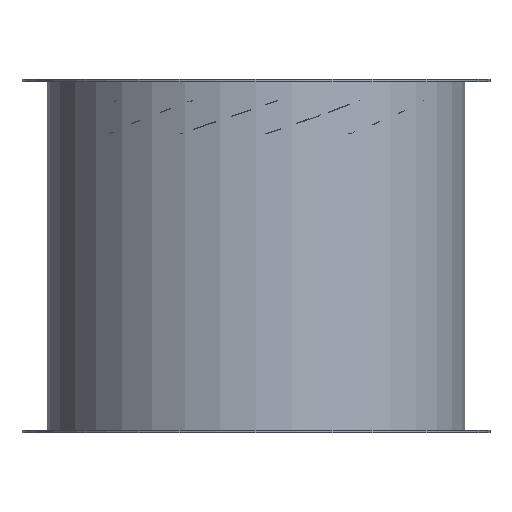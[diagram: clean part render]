
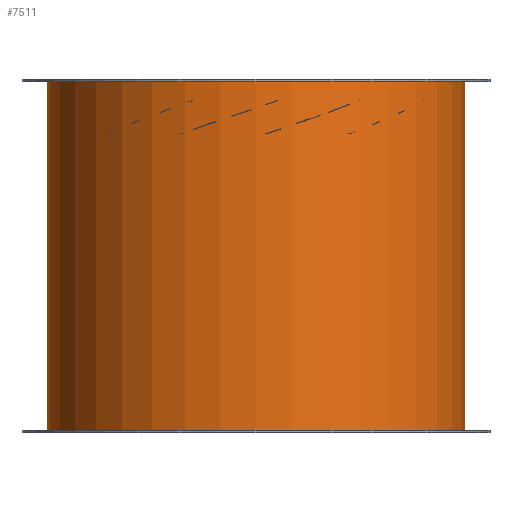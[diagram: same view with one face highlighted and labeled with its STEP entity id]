
A CAD part, front view. The second image highlights one B-rep face of the part: STEP entity #7511.
In plain terms, the highlighted cylindrical face has radius 284 mm (diameter 568 mm), a full revolution.
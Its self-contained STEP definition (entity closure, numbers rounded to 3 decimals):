
#429=FACE_BOUND('',#1373,.T.);
#430=FACE_BOUND('',#1374,.T.);
#852=FACE_OUTER_BOUND('',#1372,.T.);
#1372=EDGE_LOOP('',(#6838,#6839,#6840,#6841));
#1373=EDGE_LOOP('',(#6842,#6843));
#1374=EDGE_LOOP('',(#6844,#6845,#6846,#6847));
#1436=B_SPLINE_CURVE_WITH_KNOTS('',3,(#11876,#11877,#11878,#11879,#11880,
#11881,#11882,#11883,#11884,#11885),.UNSPECIFIED.,.F.,.F.,(4,2,2,2,4),(0.,
0.294,0.587,0.913,1.238),
 .UNSPECIFIED.);
#1437=B_SPLINE_CURVE_WITH_KNOTS('',3,(#11886,#11887,#11888,#11889,#11890,
#11891,#11892,#11893,#11894,#11895,#11896,#11897,#11898,#11899,#11900,#11901,
#11902,#11903,#11904,#11905,#11906,#11907,#11908,#11909,#11910,#11911),
 .UNSPECIFIED.,.F.,.F.,(4,2,2,2,2,2,2,2,2,2,2,2,4),(1.238,1.567,
1.896,2.193,2.489,2.77,3.051,
3.395,3.74,4.079,4.418,4.698,
4.978),.UNSPECIFIED.);
#1786=CIRCLE('',#8017,284.);
#1787=CIRCLE('',#8019,284.);
#1916=CIRCLE('',#8244,284.);
#1919=CIRCLE('',#8249,284.);
#2337=LINE('',#11976,#2875);
#2345=LINE('',#11991,#2883);
#2457=LINE('',#14234,#2995);
#2875=VECTOR('',#9634,10.);
#2883=VECTOR('',#9646,10.);
#2995=VECTOR('',#10230,284.);
#3460=VERTEX_POINT('',#11874);
#3461=VERTEX_POINT('',#11875);
#3469=VERTEX_POINT('',#11972);
#3471=VERTEX_POINT('',#11975);
#3475=VERTEX_POINT('',#11987);
#3476=VERTEX_POINT('',#11989);
#3667=VERTEX_POINT('',#14221);
#3670=VERTEX_POINT('',#14230);
#4343=EDGE_CURVE('',#3460,#3461,#1436,.T.);
#4344=EDGE_CURVE('',#3461,#3460,#1437,.T.);
#4359=EDGE_CURVE('',#3471,#3469,#2337,.T.);
#4367=EDGE_CURVE('',#3475,#3476,#2345,.T.);
#4368=EDGE_CURVE('',#3469,#3475,#1786,.T.);
#4369=EDGE_CURVE('',#3476,#3471,#1787,.T.);
#4730=EDGE_CURVE('',#3667,#3667,#1916,.T.);
#4734=EDGE_CURVE('',#3670,#3670,#1919,.T.);
#4735=EDGE_CURVE('',#3670,#3667,#2457,.T.);
#6838=ORIENTED_EDGE('',*,*,#4734,.T.);
#6839=ORIENTED_EDGE('',*,*,#4735,.T.);
#6840=ORIENTED_EDGE('',*,*,#4730,.T.);
#6841=ORIENTED_EDGE('',*,*,#4735,.F.);
#6842=ORIENTED_EDGE('',*,*,#4343,.T.);
#6843=ORIENTED_EDGE('',*,*,#4344,.T.);
#6844=ORIENTED_EDGE('',*,*,#4367,.T.);
#6845=ORIENTED_EDGE('',*,*,#4369,.T.);
#6846=ORIENTED_EDGE('',*,*,#4359,.T.);
#6847=ORIENTED_EDGE('',*,*,#4368,.T.);
#6971=CYLINDRICAL_SURFACE('',#8251,284.);
#7511=ADVANCED_FACE('',(#852,#429,#430),#6971,.T.);
#8017=AXIS2_PLACEMENT_3D('',#11993,#9649,#9650);
#8019=AXIS2_PLACEMENT_3D('',#11995,#9653,#9654);
#8244=AXIS2_PLACEMENT_3D('',#14222,#10213,#10214);
#8249=AXIS2_PLACEMENT_3D('',#14231,#10224,#10225);
#8251=AXIS2_PLACEMENT_3D('',#14233,#10228,#10229);
#9634=DIRECTION('',(0.,0.,-1.));
#9646=DIRECTION('',(0.,0.,1.));
#9649=DIRECTION('center_axis',(0.,0.,-1.));
#9650=DIRECTION('ref_axis',(-1.,0.,0.));
#9653=DIRECTION('center_axis',(0.,0.,1.));
#9654=DIRECTION('ref_axis',(-1.,0.,0.));
#10213=DIRECTION('center_axis',(0.,0.,1.));
#10214=DIRECTION('ref_axis',(-1.,0.,0.));
#10224=DIRECTION('center_axis',(0.,0.,-1.));
#10225=DIRECTION('ref_axis',(-1.,0.,0.));
#10228=DIRECTION('center_axis',(0.,0.,1.));
#10229=DIRECTION('ref_axis',(-1.,0.,0.));
#10230=DIRECTION('',(0.,0.,-1.));
#11874=CARTESIAN_POINT('',(-148.611,242.014,-148.));
#11875=CARTESIAN_POINT('',(-156.111,237.245,-140.5));
#11876=CARTESIAN_POINT('Ctrl Pts',(-148.611,242.014,-148.));
#11877=CARTESIAN_POINT('Ctrl Pts',(-148.611,242.014,-147.021));
#11878=CARTESIAN_POINT('Ctrl Pts',(-148.815,241.889,-145.995));
#11879=CARTESIAN_POINT('Ctrl Pts',(-149.598,241.406,-144.149));
#11880=CARTESIAN_POINT('Ctrl Pts',(-150.175,241.048,-143.329));
#11881=CARTESIAN_POINT('Ctrl Pts',(-151.509,240.212,-141.996));
#11882=CARTESIAN_POINT('Ctrl Pts',(-152.375,239.664,-141.421));
#11883=CARTESIAN_POINT('Ctrl Pts',(-154.223,238.479,-140.673));
#11884=CARTESIAN_POINT('Ctrl Pts',(-155.205,237.841,-140.5));
#11885=CARTESIAN_POINT('Ctrl Pts',(-156.111,237.245,-140.5));
#11886=CARTESIAN_POINT('Ctrl Pts',(-156.111,237.245,-140.5));
#11887=CARTESIAN_POINT('Ctrl Pts',(-157.028,236.642,-140.5));
#11888=CARTESIAN_POINT('Ctrl Pts',(-158.012,235.986,-140.677));
#11889=CARTESIAN_POINT('Ctrl Pts',(-159.857,234.74,-141.427));
#11890=CARTESIAN_POINT('Ctrl Pts',(-160.717,234.151,-142.));
#11891=CARTESIAN_POINT('Ctrl Pts',(-162.042,233.236,-143.324));
#11892=CARTESIAN_POINT('Ctrl Pts',(-162.619,232.834,-144.139));
#11893=CARTESIAN_POINT('Ctrl Pts',(-163.404,232.283,-145.982));
#11894=CARTESIAN_POINT('Ctrl Pts',(-163.611,232.137,-147.012));
#11895=CARTESIAN_POINT('Ctrl Pts',(-163.611,232.137,-148.936));
#11896=CARTESIAN_POINT('Ctrl Pts',(-163.425,232.268,-149.917));
#11897=CARTESIAN_POINT('Ctrl Pts',(-162.711,232.769,-151.689));
#11898=CARTESIAN_POINT('Ctrl Pts',(-162.184,233.137,-152.481));
#11899=CARTESIAN_POINT('Ctrl Pts',(-160.901,234.025,-153.864));
#11900=CARTESIAN_POINT('Ctrl Pts',(-160.015,234.633,-154.488));
#11901=CARTESIAN_POINT('Ctrl Pts',(-158.1,235.927,-155.306));
#11902=CARTESIAN_POINT('Ctrl Pts',(-157.071,236.614,-155.5));
#11903=CARTESIAN_POINT('Ctrl Pts',(-155.167,237.866,-155.5));
#11904=CARTESIAN_POINT('Ctrl Pts',(-154.146,238.53,-155.312));
#11905=CARTESIAN_POINT('Ctrl Pts',(-152.234,239.754,-154.504));
#11906=CARTESIAN_POINT('Ctrl Pts',(-151.344,240.316,-153.883));
#11907=CARTESIAN_POINT('Ctrl Pts',(-150.048,241.126,-152.498));
#11908=CARTESIAN_POINT('Ctrl Pts',(-149.516,241.456,-151.698));
#11909=CARTESIAN_POINT('Ctrl Pts',(-148.797,241.9,-149.916));
#11910=CARTESIAN_POINT('Ctrl Pts',(-148.611,242.014,-148.933));
#11911=CARTESIAN_POINT('Ctrl Pts',(-148.611,242.014,-148.));
#11972=CARTESIAN_POINT('',(-104.074,264.243,-228.));
#11975=CARTESIAN_POINT('',(-104.074,264.243,-68.));
#11976=CARTESIAN_POINT('',(-104.074,264.243,0.));
#11987=CARTESIAN_POINT('',(104.074,264.243,-228.));
#11989=CARTESIAN_POINT('',(104.074,264.243,-68.));
#11991=CARTESIAN_POINT('',(104.074,264.243,0.));
#11993=CARTESIAN_POINT('Origin',(0.,0.,-228.));
#11995=CARTESIAN_POINT('Origin',(0.,0.,-68.));
#14221=CARTESIAN_POINT('',(284.,0.,-237.));
#14222=CARTESIAN_POINT('Origin',(0.,0.,-237.));
#14230=CARTESIAN_POINT('',(284.,0.,237.));
#14231=CARTESIAN_POINT('Origin',(0.,0.,237.));
#14233=CARTESIAN_POINT('Origin',(0.,0.,0.));
#14234=CARTESIAN_POINT('',(284.,0.,0.));
